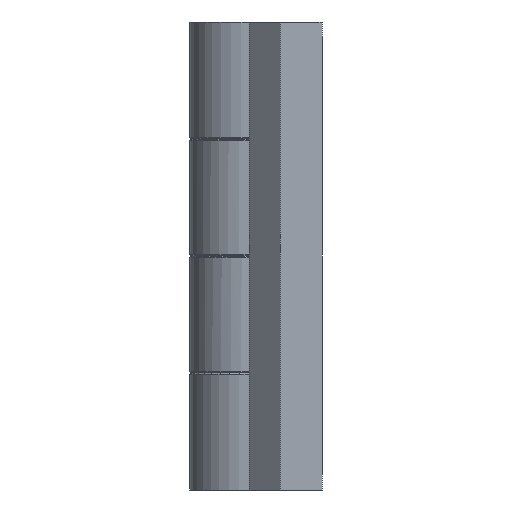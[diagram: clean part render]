
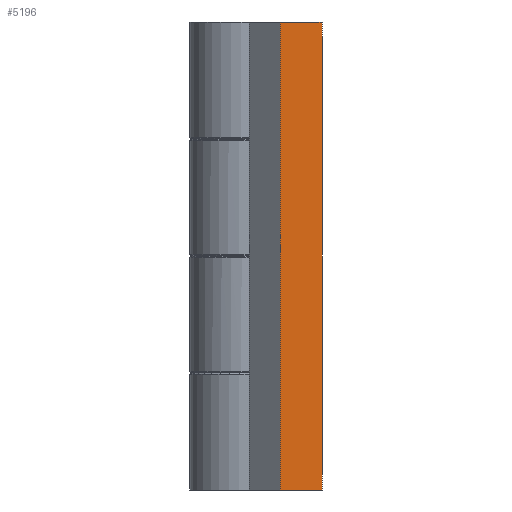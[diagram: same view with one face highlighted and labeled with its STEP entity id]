
A CAD part, left-side view. The second image highlights one B-rep face of the part: STEP entity #5196.
In plain terms, the highlighted planar face has unit normal (-1, 0, 0).
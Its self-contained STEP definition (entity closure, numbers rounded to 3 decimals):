
#70 = EDGE_CURVE ( 'NONE', #1783, #1521, #4160, .T. ) ;
#144 = EDGE_LOOP ( 'NONE', ( #4881, #2310, #1502, #298 ) ) ;
#168 = CARTESIAN_POINT ( 'NONE',  ( -20.809, -4.952, 45. ) ) ;
#298 = ORIENTED_EDGE ( 'NONE', *, *, #70, .F. ) ;
#349 = VECTOR ( 'NONE', #5091, 1000. ) ;
#447 = LINE ( 'NONE', #5677, #349 ) ;
#758 = LINE ( 'NONE', #168, #2243 ) ;
#933 = VECTOR ( 'NONE', #2357, 1000. ) ;
#1024 = PLANE ( 'NONE',  #2355 ) ;
#1502 = ORIENTED_EDGE ( 'NONE', *, *, #2658, .T. ) ;
#1521 = VERTEX_POINT ( 'NONE', #5465 ) ;
#1589 = VERTEX_POINT ( 'NONE', #2925 ) ;
#1783 = VERTEX_POINT ( 'NONE', #5697 ) ;
#2040 = FACE_OUTER_BOUND ( 'NONE', #144, .T. ) ;
#2243 = VECTOR ( 'NONE', #5411, 1000. ) ;
#2310 = ORIENTED_EDGE ( 'NONE', *, *, #3989, .T. ) ;
#2355 = AXIS2_PLACEMENT_3D ( 'NONE', #4476, #3870, #3280 ) ;
#2357 = DIRECTION ( 'NONE',  ( 0., 0., -1. ) ) ;
#2402 = VECTOR ( 'NONE', #2446, 1000. ) ;
#2446 = DIRECTION ( 'NONE',  ( 0., 0., -1. ) ) ;
#2640 = VERTEX_POINT ( 'NONE', #5829 ) ;
#2658 = EDGE_CURVE ( 'NONE', #2640, #1521, #447, .T. ) ;
#2925 = CARTESIAN_POINT ( 'NONE',  ( -20.809, -0.952, 45. ) ) ;
#2945 = CARTESIAN_POINT ( 'NONE',  ( -20.809, -4.952, 45. ) ) ;
#3049 = CARTESIAN_POINT ( 'NONE',  ( -20.809, -0.952, 45. ) ) ;
#3280 = DIRECTION ( 'NONE',  ( 0., 1., 0. ) ) ;
#3870 = DIRECTION ( 'NONE',  ( 1., 0., 0. ) ) ;
#3989 = EDGE_CURVE ( 'NONE', #1589, #2640, #4838, .T. ) ;
#4160 = LINE ( 'NONE', #2945, #933 ) ;
#4476 = CARTESIAN_POINT ( 'NONE',  ( -20.809, -4.952, 45. ) ) ;
#4838 = LINE ( 'NONE', #3049, #2402 ) ;
#4881 = ORIENTED_EDGE ( 'NONE', *, *, #5302, .F. ) ;
#5091 = DIRECTION ( 'NONE',  ( 0., -1., 0. ) ) ;
#5196 = ADVANCED_FACE ( 'NONE', ( #2040 ), #1024, .F. ) ;
#5302 = EDGE_CURVE ( 'NONE', #1589, #1783, #758, .T. ) ;
#5411 = DIRECTION ( 'NONE',  ( 0., -1., 0. ) ) ;
#5465 = CARTESIAN_POINT ( 'NONE',  ( -20.809, -4.952, 0. ) ) ;
#5677 = CARTESIAN_POINT ( 'NONE',  ( -20.809, -4.952, 0. ) ) ;
#5697 = CARTESIAN_POINT ( 'NONE',  ( -20.809, -4.952, 45. ) ) ;
#5829 = CARTESIAN_POINT ( 'NONE',  ( -20.809, -0.952, 0. ) ) ;
